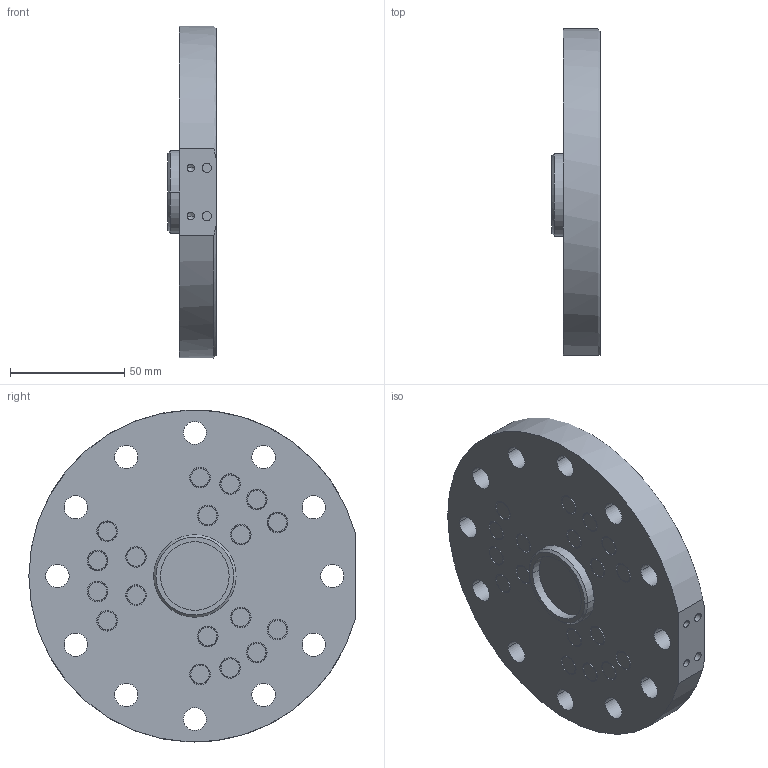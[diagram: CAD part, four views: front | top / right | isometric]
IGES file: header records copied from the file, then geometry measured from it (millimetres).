
Start section:  PTC IGES file: t_axis_gp110_sw1.igs
Global section: file name: t_axis_gp110_sw1.igs; native system: Creo Parametric by Parametric Technology Corporation; preprocessor: 2015030; author: robo228; organization: Unknown; date: 20171226.145607; units: millimetre
Bounding box: 21 x 142.5 x 145 mm (x, y, z)
Volume: 222460.9 mm3; surface area: 65262 mm2
Topology: 1 solids, 1 shells, 534 faces, 1256 edges, 830 vertices
Faces by surface type: revolution 310, bspline 224
